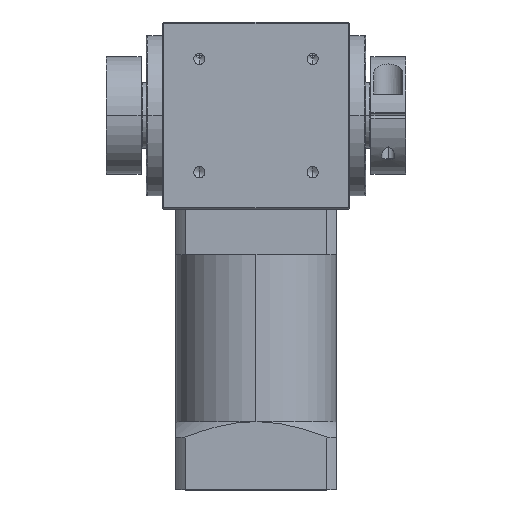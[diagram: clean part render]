
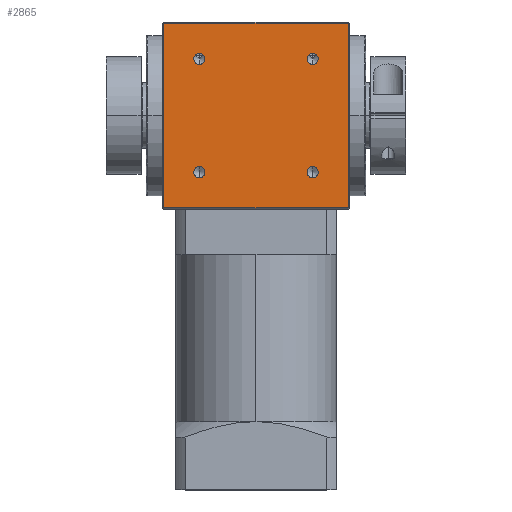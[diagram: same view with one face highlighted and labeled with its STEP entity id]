
A CAD part, top view. The second image highlights one B-rep face of the part: STEP entity #2865.
In plain terms, the highlighted planar face has unit normal (0, 0, 1).
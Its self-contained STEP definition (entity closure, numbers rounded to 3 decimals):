
#277 = DIRECTION ( 'NONE',  ( 1., 0., 0. ) ) ;
#335 = EDGE_CURVE ( 'NONE', #2030, #3662, #6936, .T. ) ;
#395 = CARTESIAN_POINT ( 'NONE',  ( 0., 34.5, 35. ) ) ;
#420 = VECTOR ( 'NONE', #277, 1000. ) ;
#439 = CARTESIAN_POINT ( 'NONE',  ( 34.5, -34.5, 35. ) ) ;
#484 = EDGE_CURVE ( 'NONE', #4253, #4735, #2522, .T. ) ;
#587 = EDGE_CURVE ( 'NONE', #7497, #7403, #3016, .T. ) ;
#650 = DIRECTION ( 'NONE',  ( -1., 0., 0. ) ) ;
#658 = DIRECTION ( 'NONE',  ( 0., 0., -1. ) ) ;
#669 = CARTESIAN_POINT ( 'NONE',  ( 0., 0., 35. ) ) ;
#727 = DIRECTION ( 'NONE',  ( 0., -1., 0. ) ) ;
#732 = DIRECTION ( 'NONE',  ( 0., 0., 1. ) ) ;
#735 = VERTEX_POINT ( 'NONE', #10073 ) ;
#746 = CARTESIAN_POINT ( 'NONE',  ( -21.2, 21.2, 35. ) ) ;
#751 = PLANE ( 'NONE',  #8776 ) ;
#793 = DIRECTION ( 'NONE',  ( 0., -1., 0. ) ) ;
#796 = DIRECTION ( 'NONE',  ( 0., 0., 1. ) ) ;
#806 = CARTESIAN_POINT ( 'NONE',  ( 21.2, 21.2, 35. ) ) ;
#826 = DIRECTION ( 'NONE',  ( 0., -1., 0. ) ) ;
#839 = DIRECTION ( 'NONE',  ( 0., 0., 1. ) ) ;
#849 = CARTESIAN_POINT ( 'NONE',  ( -21.2, -21.2, 35. ) ) ;
#911 = DIRECTION ( 'NONE',  ( 0., -1., 0. ) ) ;
#913 = DIRECTION ( 'NONE',  ( 0., 0., 1. ) ) ;
#918 = CIRCLE ( 'NONE', #6949, 2.1 ) ;
#925 = CARTESIAN_POINT ( 'NONE',  ( 21.2, -21.2, 35. ) ) ;
#1192 = ORIENTED_EDGE ( 'NONE', *, *, #335, .F. ) ;
#1368 = DIRECTION ( 'NONE',  ( 0., -1., 0. ) ) ;
#1537 = CARTESIAN_POINT ( 'NONE',  ( -21.2, -19.1, 35. ) ) ;
#1606 = EDGE_CURVE ( 'NONE', #4520, #735, #4179, .T. ) ;
#1661 = CARTESIAN_POINT ( 'NONE',  ( 34.5, 0., 35. ) ) ;
#1774 = AXIS2_PLACEMENT_3D ( 'NONE', #1828, #1933, #1950 ) ;
#1828 = CARTESIAN_POINT ( 'NONE',  ( 21.2, -21.2, 35. ) ) ;
#1933 = DIRECTION ( 'NONE',  ( 0., 0., 1. ) ) ;
#1950 = DIRECTION ( 'NONE',  ( 0., -1., 0. ) ) ;
#2030 = VERTEX_POINT ( 'NONE', #6109 ) ;
#2092 = CARTESIAN_POINT ( 'NONE',  ( -21.2, -23.3, 35. ) ) ;
#2123 = VECTOR ( 'NONE', #6214, 1000. ) ;
#2137 = LINE ( 'NONE', #6290, #2123 ) ;
#2269 = ORIENTED_EDGE ( 'NONE', *, *, #5053, .F. ) ;
#2499 = EDGE_LOOP ( 'NONE', ( #11157, #9051 ) ) ;
#2522 = CIRCLE ( 'NONE', #10603, 2.1 ) ;
#2649 = ORIENTED_EDGE ( 'NONE', *, *, #5038, .F. ) ;
#2865 = ADVANCED_FACE ( 'NONE', ( #3702, #4958, #8535, #4801, #9794 ), #751, .F. ) ;
#2971 = CARTESIAN_POINT ( 'NONE',  ( -21.2, 21.2, 35. ) ) ;
#3016 = CIRCLE ( 'NONE', #10572, 2.1 ) ;
#3032 = CARTESIAN_POINT ( 'NONE',  ( 21.2, 19.1, 35. ) ) ;
#3305 = LINE ( 'NONE', #5598, #3415 ) ;
#3415 = VECTOR ( 'NONE', #5556, 1000. ) ;
#3463 = CARTESIAN_POINT ( 'NONE',  ( 21.2, -23.3, 35. ) ) ;
#3662 = VERTEX_POINT ( 'NONE', #11169 ) ;
#3702 = FACE_BOUND ( 'NONE', #8756, .T. ) ;
#3756 = ORIENTED_EDGE ( 'NONE', *, *, #4398, .F. ) ;
#4123 = VERTEX_POINT ( 'NONE', #8104 ) ;
#4179 = LINE ( 'NONE', #395, #420 ) ;
#4253 = VERTEX_POINT ( 'NONE', #6826 ) ;
#4338 = EDGE_CURVE ( 'NONE', #8546, #10296, #2137, .T. ) ;
#4398 = EDGE_CURVE ( 'NONE', #8546, #4520, #3305, .T. ) ;
#4471 = CARTESIAN_POINT ( 'NONE',  ( -34.5, 34.5, 35. ) ) ;
#4520 = VERTEX_POINT ( 'NONE', #4471 ) ;
#4735 = VERTEX_POINT ( 'NONE', #3032 ) ;
#4801 = FACE_BOUND ( 'NONE', #11093, .T. ) ;
#4958 = FACE_BOUND ( 'NONE', #2499, .T. ) ;
#5019 = EDGE_CURVE ( 'NONE', #735, #10296, #9257, .T. ) ;
#5038 = EDGE_CURVE ( 'NONE', #11119, #4123, #9883, .T. ) ;
#5040 = EDGE_CURVE ( 'NONE', #7403, #7497, #918, .T. ) ;
#5053 = EDGE_CURVE ( 'NONE', #4735, #4253, #9863, .T. ) ;
#5069 = EDGE_CURVE ( 'NONE', #3662, #2030, #6696, .T. ) ;
#5342 = DIRECTION ( 'NONE',  ( 0., 0., 1. ) ) ;
#5544 = DIRECTION ( 'NONE',  ( 0., -1., 0. ) ) ;
#5556 = DIRECTION ( 'NONE',  ( 0., 1., 0. ) ) ;
#5598 = CARTESIAN_POINT ( 'NONE',  ( -34.5, 0., 35. ) ) ;
#6109 = CARTESIAN_POINT ( 'NONE',  ( -21.2, 23.3, 35. ) ) ;
#6214 = DIRECTION ( 'NONE',  ( 1., 0., 0. ) ) ;
#6290 = CARTESIAN_POINT ( 'NONE',  ( 0., -34.5, 35. ) ) ;
#6696 = CIRCLE ( 'NONE', #6935, 2.1 ) ;
#6826 = CARTESIAN_POINT ( 'NONE',  ( 21.2, 23.3, 35. ) ) ;
#6935 = AXIS2_PLACEMENT_3D ( 'NONE', #746, #732, #727 ) ;
#6936 = CIRCLE ( 'NONE', #10623, 2.1 ) ;
#6937 = AXIS2_PLACEMENT_3D ( 'NONE', #806, #796, #793 ) ;
#6949 = AXIS2_PLACEMENT_3D ( 'NONE', #849, #839, #826 ) ;
#6952 = AXIS2_PLACEMENT_3D ( 'NONE', #925, #913, #911 ) ;
#7240 = EDGE_LOOP ( 'NONE', ( #8771, #8502, #8650, #3756 ) ) ;
#7287 = ORIENTED_EDGE ( 'NONE', *, *, #5069, .F. ) ;
#7403 = VERTEX_POINT ( 'NONE', #2092 ) ;
#7497 = VERTEX_POINT ( 'NONE', #1537 ) ;
#8104 = CARTESIAN_POINT ( 'NONE',  ( 21.2, -19.1, 35. ) ) ;
#8337 = ORIENTED_EDGE ( 'NONE', *, *, #10723, .F. ) ;
#8369 = ORIENTED_EDGE ( 'NONE', *, *, #484, .F. ) ;
#8370 = DIRECTION ( 'NONE',  ( 0., -1., 0. ) ) ;
#8502 = ORIENTED_EDGE ( 'NONE', *, *, #5019, .F. ) ;
#8535 = FACE_BOUND ( 'NONE', #10874, .T. ) ;
#8546 = VERTEX_POINT ( 'NONE', #9777 ) ;
#8650 = ORIENTED_EDGE ( 'NONE', *, *, #1606, .F. ) ;
#8756 = EDGE_LOOP ( 'NONE', ( #2649, #8337 ) ) ;
#8771 = ORIENTED_EDGE ( 'NONE', *, *, #4338, .T. ) ;
#8776 = AXIS2_PLACEMENT_3D ( 'NONE', #669, #658, #650 ) ;
#9051 = ORIENTED_EDGE ( 'NONE', *, *, #587, .F. ) ;
#9257 = LINE ( 'NONE', #1661, #9407 ) ;
#9407 = VECTOR ( 'NONE', #1368, 1000. ) ;
#9616 = CIRCLE ( 'NONE', #1774, 2.1 ) ;
#9777 = CARTESIAN_POINT ( 'NONE',  ( -34.5, -34.5, 35. ) ) ;
#9794 = FACE_OUTER_BOUND ( 'NONE', #7240, .T. ) ;
#9863 = CIRCLE ( 'NONE', #6937, 2.1 ) ;
#9883 = CIRCLE ( 'NONE', #6952, 2.1 ) ;
#10073 = CARTESIAN_POINT ( 'NONE',  ( 34.5, 34.5, 35. ) ) ;
#10296 = VERTEX_POINT ( 'NONE', #439 ) ;
#10572 = AXIS2_PLACEMENT_3D ( 'NONE', #10626, #10610, #10600 ) ;
#10600 = DIRECTION ( 'NONE',  ( 0., -1., 0. ) ) ;
#10603 = AXIS2_PLACEMENT_3D ( 'NONE', #10990, #10978, #8370 ) ;
#10610 = DIRECTION ( 'NONE',  ( 0., 0., 1. ) ) ;
#10623 = AXIS2_PLACEMENT_3D ( 'NONE', #2971, #5342, #5544 ) ;
#10626 = CARTESIAN_POINT ( 'NONE',  ( -21.2, -21.2, 35. ) ) ;
#10723 = EDGE_CURVE ( 'NONE', #4123, #11119, #9616, .T. ) ;
#10874 = EDGE_LOOP ( 'NONE', ( #2269, #8369 ) ) ;
#10978 = DIRECTION ( 'NONE',  ( 0., 0., 1. ) ) ;
#10990 = CARTESIAN_POINT ( 'NONE',  ( 21.2, 21.2, 35. ) ) ;
#11093 = EDGE_LOOP ( 'NONE', ( #7287, #1192 ) ) ;
#11119 = VERTEX_POINT ( 'NONE', #3463 ) ;
#11157 = ORIENTED_EDGE ( 'NONE', *, *, #5040, .F. ) ;
#11169 = CARTESIAN_POINT ( 'NONE',  ( -21.2, 19.1, 35. ) ) ;
